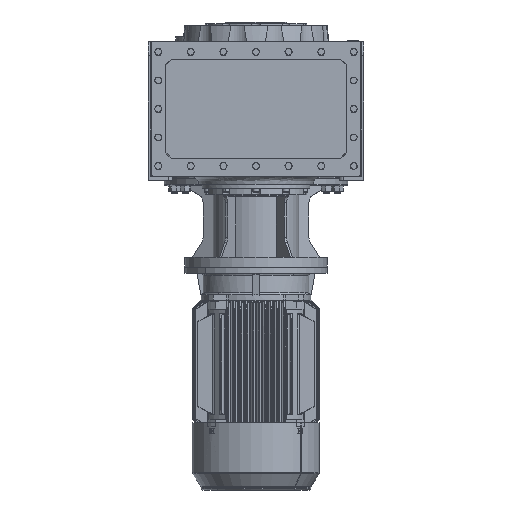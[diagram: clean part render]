
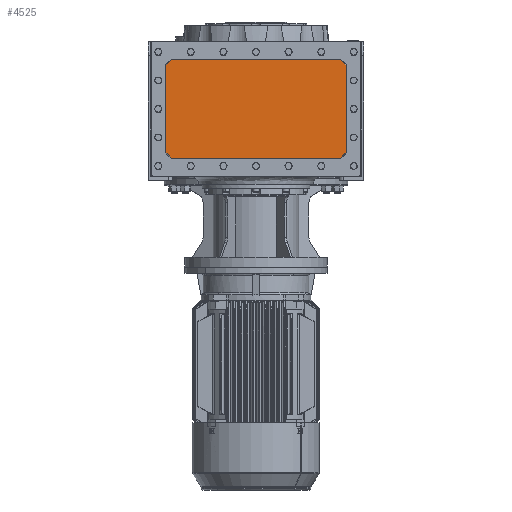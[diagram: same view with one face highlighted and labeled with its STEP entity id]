
A CAD part, front view. The second image highlights one B-rep face of the part: STEP entity #4525.
In plain terms, the highlighted planar face has unit normal (0, -1, 0).
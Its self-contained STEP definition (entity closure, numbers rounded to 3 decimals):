
#4525 = ADVANCED_FACE ( 'NONE', ( #45318 ), #36544, .T. ) ;
#27373 = EDGE_LOOP ( 'NONE', ( #96121, #96182, #96204, #96215, #96160, #96084, #96145, #96284 ) ) ;
#29037 = VERTEX_POINT ( 'NONE', #42120 ) ;
#29055 = VERTEX_POINT ( 'NONE', #42082 ) ;
#29078 = VERTEX_POINT ( 'NONE', #42112 ) ;
#29082 = VERTEX_POINT ( 'NONE', #42124 ) ;
#33820 = EDGE_CURVE ( 'NONE', #29082, #55501, #55743, .T. ) ;
#33824 = EDGE_CURVE ( 'NONE', #29037, #55521, #55756, .T. ) ;
#33870 = EDGE_CURVE ( 'NONE', #55501, #55525, #55790, .T. ) ;
#33914 = EDGE_CURVE ( 'NONE', #55521, #55559, #55801, .T. ) ;
#33969 = EDGE_CURVE ( 'NONE', #55559, #29055, #55811, .T. ) ;
#33977 = EDGE_CURVE ( 'NONE', #29055, #29082, #55806, .T. ) ;
#33985 = EDGE_CURVE ( 'NONE', #55525, #29078, #54061, .T. ) ;
#33989 = EDGE_CURVE ( 'NONE', #29078, #29037, #54315, .T. ) ;
#36544 = PLANE ( 'NONE',  #87373 ) ;
#36549 = CARTESIAN_POINT ( 'NONE',  ( 0., -227., 0. ) ) ;
#36563 = DIRECTION ( 'NONE',  ( 0., 0., -1. ) ) ;
#36592 = DIRECTION ( 'NONE',  ( 0., -1., 0. ) ) ;
#42082 = CARTESIAN_POINT ( 'NONE',  ( 220.928, -227., 62.694 ) ) ;
#42112 = CARTESIAN_POINT ( 'NONE',  ( -220.928, -227., 277.806 ) ) ;
#42120 = CARTESIAN_POINT ( 'NONE',  ( -207.556, -227., 291.178 ) ) ;
#42124 = CARTESIAN_POINT ( 'NONE',  ( 207.556, -227., 49.322 ) ) ;
#45318 = FACE_OUTER_BOUND ( 'NONE', #27373, .T. ) ;
#54061 = LINE ( 'NONE', #62598, #54305 ) ;
#54305 = VECTOR ( 'NONE', #62607, 1000. ) ;
#54315 = LINE ( 'NONE', #62583, #54505 ) ;
#54505 = VECTOR ( 'NONE', #62631, 1000. ) ;
#55501 = VERTEX_POINT ( 'NONE', #71506 ) ;
#55521 = VERTEX_POINT ( 'NONE', #71468 ) ;
#55525 = VERTEX_POINT ( 'NONE', #71422 ) ;
#55559 = VERTEX_POINT ( 'NONE', #71642 ) ;
#55743 = LINE ( 'NONE', #62490, #55745 ) ;
#55745 = VECTOR ( 'NONE', #62495, 1000. ) ;
#55756 = LINE ( 'NONE', #62518, #55831 ) ;
#55790 = LINE ( 'NONE', #62532, #55827 ) ;
#55801 = LINE ( 'NONE', #62578, #55818 ) ;
#55806 = LINE ( 'NONE', #62636, #55808 ) ;
#55808 = VECTOR ( 'NONE', #62635, 1000. ) ;
#55811 = LINE ( 'NONE', #62547, #55826 ) ;
#55818 = VECTOR ( 'NONE', #62550, 1000. ) ;
#55826 = VECTOR ( 'NONE', #62558, 1000. ) ;
#55827 = VECTOR ( 'NONE', #62525, 1000. ) ;
#55831 = VECTOR ( 'NONE', #62530, 1000. ) ;
#62490 = CARTESIAN_POINT ( 'NONE',  ( -208., -227., 49.322 ) ) ;
#62495 = DIRECTION ( 'NONE',  ( -1., 0., 0. ) ) ;
#62518 = CARTESIAN_POINT ( 'NONE',  ( -208., -227., 291.178 ) ) ;
#62525 = DIRECTION ( 'NONE',  ( -0.707, 0., 0.707 ) ) ;
#62530 = DIRECTION ( 'NONE',  ( 1., 0., 0. ) ) ;
#62532 = CARTESIAN_POINT ( 'NONE',  ( -221.242, -227., 63.008 ) ) ;
#62547 = CARTESIAN_POINT ( 'NONE',  ( 220.928, -227., 278.25 ) ) ;
#62550 = DIRECTION ( 'NONE',  ( 0.707, 0., -0.707 ) ) ;
#62558 = DIRECTION ( 'NONE',  ( 0., 0., -1. ) ) ;
#62578 = CARTESIAN_POINT ( 'NONE',  ( 207.242, -227., 291.492 ) ) ;
#62583 = CARTESIAN_POINT ( 'NONE',  ( -207.242, -227., 291.492 ) ) ;
#62598 = CARTESIAN_POINT ( 'NONE',  ( -220.928, -227., 278.25 ) ) ;
#62607 = DIRECTION ( 'NONE',  ( 0., 0., 1. ) ) ;
#62631 = DIRECTION ( 'NONE',  ( 0.707, 0., 0.707 ) ) ;
#62635 = DIRECTION ( 'NONE',  ( -0.707, 0., -0.707 ) ) ;
#62636 = CARTESIAN_POINT ( 'NONE',  ( 221.242, -227., 63.008 ) ) ;
#71422 = CARTESIAN_POINT ( 'NONE',  ( -220.928, -227., 62.694 ) ) ;
#71468 = CARTESIAN_POINT ( 'NONE',  ( 207.556, -227., 291.178 ) ) ;
#71506 = CARTESIAN_POINT ( 'NONE',  ( -207.556, -227., 49.322 ) ) ;
#71642 = CARTESIAN_POINT ( 'NONE',  ( 220.928, -227., 277.806 ) ) ;
#87373 = AXIS2_PLACEMENT_3D ( 'NONE', #36549, #36592, #36563 ) ;
#96084 = ORIENTED_EDGE ( 'NONE', *, *, #33870, .F. ) ;
#96121 = ORIENTED_EDGE ( 'NONE', *, *, #33969, .F. ) ;
#96145 = ORIENTED_EDGE ( 'NONE', *, *, #33820, .F. ) ;
#96160 = ORIENTED_EDGE ( 'NONE', *, *, #33985, .F. ) ;
#96182 = ORIENTED_EDGE ( 'NONE', *, *, #33914, .F. ) ;
#96204 = ORIENTED_EDGE ( 'NONE', *, *, #33824, .F. ) ;
#96215 = ORIENTED_EDGE ( 'NONE', *, *, #33989, .F. ) ;
#96284 = ORIENTED_EDGE ( 'NONE', *, *, #33977, .F. ) ;
